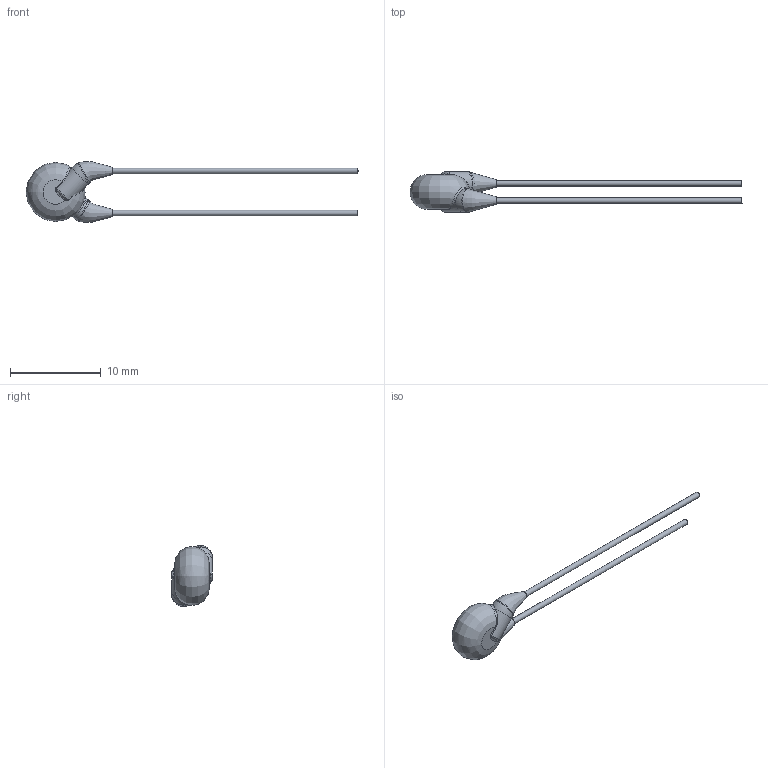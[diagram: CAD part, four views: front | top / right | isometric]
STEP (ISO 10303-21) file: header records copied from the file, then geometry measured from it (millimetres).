
FILE_DESCRIPTION(/* description */ (''),/* implementation_level */ '2;1');
FILE_NAME(/* name */ 'I:\Marketing\M6t1\3D-Models\Zchng-Werk-3\Upload for homepage\Roederstein\WYO\Y5U_250-440\WYO102MCMBF0KR\WYO102MCMBF0KR.stp',/* time_stamp */ '2018-03-21T10:52:52+01:00',/* author */ ('sheinrich'),/* organization */ (''),/* preprocessor_version */ 'ST-DEVELOPER v16.1',/* originating_system */ 'Autodesk Inventor 2016',/* authorisation */ '');
FILE_SCHEMA (('AUTOMOTIVE_DESIGN { 1 0 10303 214 3 1 1 }'));
Length unit declared in the file: centimetre
Products named in the file (1): WYO102MCMBF0KR
Bounding box: 36.5 x 4.5 x 6.71 mm (x, y, z)
Volume: 141.9 mm3; surface area: 253 mm2
Topology: 1 solids, 1 shells, 31 faces, 67 edges, 40 vertices
Faces by surface type: bspline 15, plane 6, cylinder 6, torus 4
Full cylindrical faces by diameter (mm): 0.6 x2
Entity records: 1661 total; most frequent: CARTESIAN_POINT 1029, ORIENTED_EDGE 122, DIRECTION 94, EDGE_CURVE 61, AXIS2_PLACEMENT_3D 45, VERTEX_POINT 38, EDGE_LOOP 37, STYLED_ITEM 32
